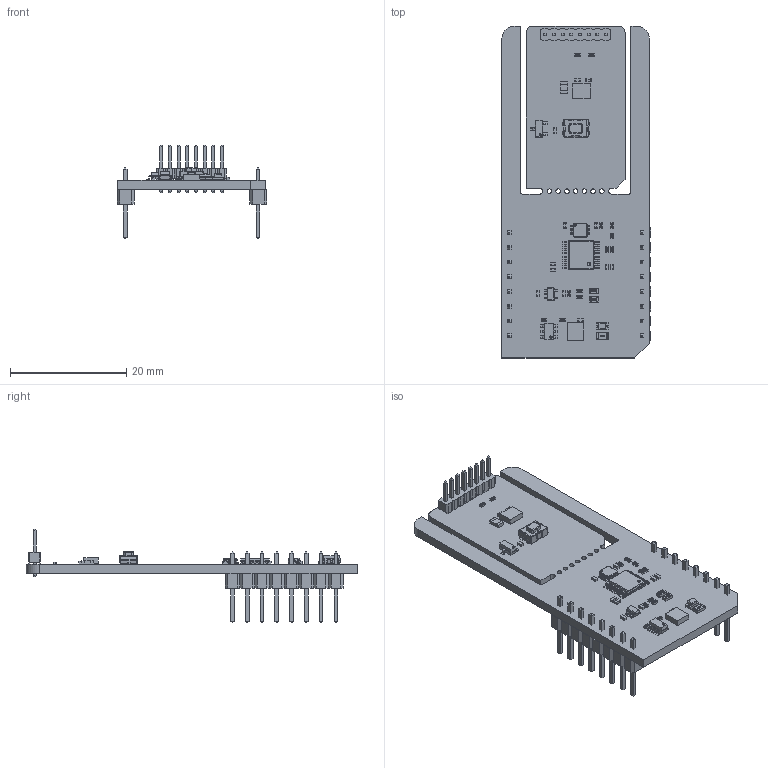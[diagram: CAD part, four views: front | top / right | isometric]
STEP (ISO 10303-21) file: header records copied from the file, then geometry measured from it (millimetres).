
FILE_DESCRIPTION(('Open CASCADE Model'),'2;1');
FILE_NAME('Open CASCADE Shape Model','2025-12-30T10:42:03',('Author'),( 'Open CASCADE'),'Open CASCADE STEP processor 6.8','Open CASCADE 6.8' ,'Unknown');
FILE_SCHEMA(('AUTOMOTIVE_DESIGN { 1 0 10303 214 1 1 1 1 }'));
Length unit declared in the file: millimetre
Products named in the file (71): PCB; Board; C7; User_Library-SMD_CAPACITOR0402; T1; User_Library-Switch-CK-KMR2; User_Library-Switch-CK-KMR2_Button; User_Library-Switch-CK-KMR2_Boitier; User_Library-Switch-CK-KMR2_Tole; User_Library-Switch-CK-KMR2_Pads; R2; User_Library-R_0402; R3; R1; User_Library-R_0805; LD1; led_0805_green; C1; R4; U1; 1073184576; Extruded; U2; User_Library-SOT23-6-2; U7; User_Library-US8_Package_(8US8_8SM8_8DSBGA)_2_4x2_1x0_9; U6; User_Library-TSSOP-16; R13; R12; R11; R10; R9; C13; C12; C11; C10; C9; C8; U5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
Assembly tree (102 placements, depth 7):
  PCB
    Board
    C7
      User_Library-SMD_CAPACITOR0402
    T1
      User_Library-Switch-CK-KMR2
        User_Library-Switch-CK-KMR2_Button
        User_Library-Switch-CK-KMR2_Boitier
        User_Library-Switch-CK-KMR2_Tole
        User_Library-Switch-CK-KMR2_Pads
    R2
      User_Library-R_0402
    R3
      User_Library-R_0402
    R1
      User_Library-R_0805
    LD1
      led_0805_green
    C1
      User_Library-SMD_CAPACITOR0402
    R4
      User_Library-R_0402
    U1
      1073184576
        Extruded
    U2
      User_Library-SOT23-6-2
    U7
      User_Library-US8_Package_(8US8_8SM8_8DSBGA)_2_4x2_1x0_9
    U6
      User_Library-TSSOP-16
    R13
      User_Library-R_0402
    R12
      User_Library-R_0402
    R11
      User_Library-R_0402
    R10
      User_Library-R_0402
    R9
      User_Library-R_0402
    C13
      User_Library-SMD_CAPACITOR0402
    C12
      User_Library-SMD_CAPACITOR0402
    C11
      User_Library-SMD_CAPACITOR0402
    C10
      User_Library-SMD_CAPACITOR0402
    C9
      User_Library-SMD_CAPACITOR0402
    C8
      User_Library-SMD_CAPACITOR0402
    U5
      Sot353
    R8
      User_Library-R_0402
    R7
      User_Library-R_0402
    R6
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Bounding box: 25.78 x 57.15 x 16.11 mm (x, y, z)
Volume: 2791.9 mm3; surface area: 5241.2 mm2
Topology: 126 solids, 126 shells, 3658 faces, 9141 edges, 5761 vertices
Faces by surface type: plane 2605, cylinder 467, bspline 454, sphere 122, cone 10
Full cylindrical faces by diameter (mm): 0.8 x7
Entity records: 64613 total; most frequent: CARTESIAN_POINT 16386, ORIENTED_EDGE 8614, DIRECTION 7941, EDGE_CURVE 4307, LINE 3453, VECTOR 3453, VERTEX_POINT 2757, AXIS2_PLACEMENT_3D 2244
